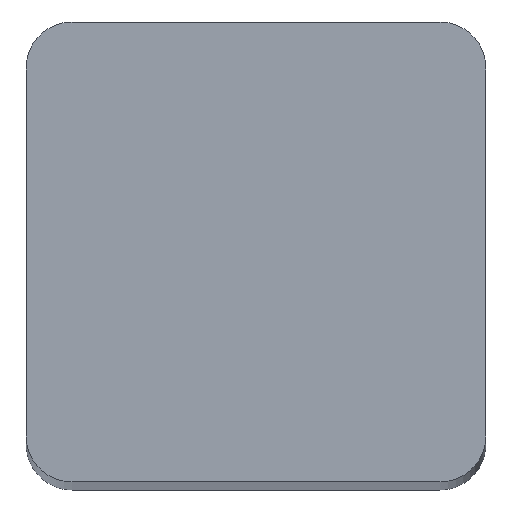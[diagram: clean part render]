
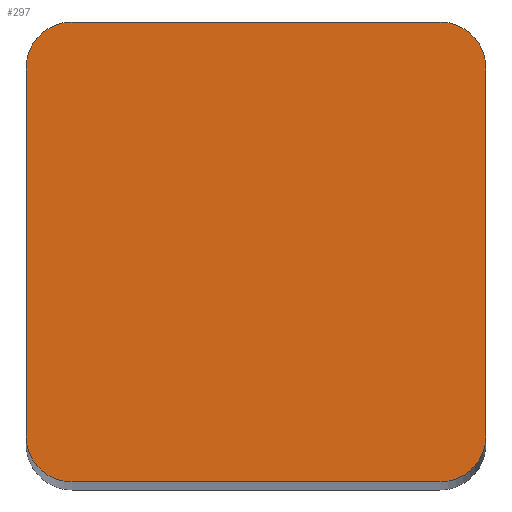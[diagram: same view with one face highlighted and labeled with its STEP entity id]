
A CAD part, top view. The second image highlights one B-rep face of the part: STEP entity #297.
In plain terms, the highlighted planar face has unit normal (0, 0, 1).
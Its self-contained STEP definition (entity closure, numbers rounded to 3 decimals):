
#1 = CARTESIAN_POINT ( 'NONE',  ( 18., 2., 200. ) ) ;
#2 = VERTEX_POINT ( 'NONE', #164 ) ;
#12 = EDGE_CURVE ( 'NONE', #300, #333, #306, .T. ) ;
#13 = CIRCLE ( 'NONE', #275, 2. ) ;
#25 = CARTESIAN_POINT ( 'NONE',  ( 20., 18., 200. ) ) ;
#26 = CARTESIAN_POINT ( 'NONE',  ( 0., 18., 200. ) ) ;
#32 = VECTOR ( 'NONE', #133, 1000. ) ;
#36 = VERTEX_POINT ( 'NONE', #253 ) ;
#37 = FACE_OUTER_BOUND ( 'NONE', #145, .T. ) ;
#40 = ORIENTED_EDGE ( 'NONE', *, *, #216, .T. ) ;
#49 = DIRECTION ( 'NONE',  ( 0., 0., 1. ) ) ;
#51 = PLANE ( 'NONE',  #251 ) ;
#53 = EDGE_CURVE ( 'NONE', #36, #196, #214, .T. ) ;
#56 = DIRECTION ( 'NONE',  ( -1., 0., 0. ) ) ;
#65 = EDGE_CURVE ( 'NONE', #2, #160, #126, .T. ) ;
#73 = CARTESIAN_POINT ( 'NONE',  ( 18., 20., 200. ) ) ;
#82 = DIRECTION ( 'NONE',  ( -1., 0., 0. ) ) ;
#85 = VECTOR ( 'NONE', #56, 1000. ) ;
#92 = CIRCLE ( 'NONE', #336, 2. ) ;
#103 = ORIENTED_EDGE ( 'NONE', *, *, #53, .T. ) ;
#125 = ORIENTED_EDGE ( 'NONE', *, *, #12, .T. ) ;
#126 = LINE ( 'NONE', #344, #147 ) ;
#133 = DIRECTION ( 'NONE',  ( 0., -1., 0. ) ) ;
#145 = EDGE_LOOP ( 'NONE', ( #103, #40, #157, #217, #231, #276, #125, #192 ) ) ;
#147 = VECTOR ( 'NONE', #194, 1000. ) ;
#157 = ORIENTED_EDGE ( 'NONE', *, *, #65, .T. ) ;
#160 = VERTEX_POINT ( 'NONE', #25 ) ;
#164 = CARTESIAN_POINT ( 'NONE',  ( 20., 2., 200. ) ) ;
#172 = DIRECTION ( 'NONE',  ( 0., 0., 1. ) ) ;
#173 = VERTEX_POINT ( 'NONE', #264 ) ;
#180 = DIRECTION ( 'NONE',  ( -1., 0., 0. ) ) ;
#184 = DIRECTION ( 'NONE',  ( -1., 0., 0. ) ) ;
#192 = ORIENTED_EDGE ( 'NONE', *, *, #235, .T. ) ;
#194 = DIRECTION ( 'NONE',  ( 0., 1., 0. ) ) ;
#196 = VERTEX_POINT ( 'NONE', #198 ) ;
#198 = CARTESIAN_POINT ( 'NONE',  ( 18., 0., 200. ) ) ;
#199 = EDGE_CURVE ( 'NONE', #270, #173, #307, .T. ) ;
#200 = CARTESIAN_POINT ( 'NONE',  ( 0., 20., 200. ) ) ;
#203 = DIRECTION ( 'NONE',  ( 0., 0., 1. ) ) ;
#214 = LINE ( 'NONE', #258, #334 ) ;
#216 = EDGE_CURVE ( 'NONE', #196, #2, #13, .T. ) ;
#217 = ORIENTED_EDGE ( 'NONE', *, *, #310, .T. ) ;
#228 = DIRECTION ( 'NONE',  ( 0., 0., -1. ) ) ;
#231 = ORIENTED_EDGE ( 'NONE', *, *, #199, .T. ) ;
#234 = CARTESIAN_POINT ( 'NONE',  ( 0., 2., 200. ) ) ;
#235 = EDGE_CURVE ( 'NONE', #333, #36, #361, .T. ) ;
#248 = AXIS2_PLACEMENT_3D ( 'NONE', #294, #203, #265 ) ;
#251 = AXIS2_PLACEMENT_3D ( 'NONE', #355, #228, #180 ) ;
#253 = CARTESIAN_POINT ( 'NONE',  ( 2., 0., 200. ) ) ;
#258 = CARTESIAN_POINT ( 'NONE',  ( 0., 0., 200. ) ) ;
#264 = CARTESIAN_POINT ( 'NONE',  ( 2., 20., 200. ) ) ;
#265 = DIRECTION ( 'NONE',  ( -1., 0., 0. ) ) ;
#270 = VERTEX_POINT ( 'NONE', #73 ) ;
#274 = CARTESIAN_POINT ( 'NONE',  ( 2., 18., 200. ) ) ;
#275 = AXIS2_PLACEMENT_3D ( 'NONE', #1, #49, #82 ) ;
#276 = ORIENTED_EDGE ( 'NONE', *, *, #363, .T. ) ;
#278 = CIRCLE ( 'NONE', #279, 2. ) ;
#279 = AXIS2_PLACEMENT_3D ( 'NONE', #350, #172, #324 ) ;
#294 = CARTESIAN_POINT ( 'NONE',  ( 2., 2., 200. ) ) ;
#297 = ADVANCED_FACE ( 'NONE', ( #37 ), #51, .F. ) ;
#300 = VERTEX_POINT ( 'NONE', #26 ) ;
#306 = LINE ( 'NONE', #370, #32 ) ;
#307 = LINE ( 'NONE', #200, #85 ) ;
#310 = EDGE_CURVE ( 'NONE', #160, #270, #278, .T. ) ;
#317 = DIRECTION ( 'NONE',  ( 1., 0., 0. ) ) ;
#324 = DIRECTION ( 'NONE',  ( -1., 0., 0. ) ) ;
#328 = DIRECTION ( 'NONE',  ( 0., 0., 1. ) ) ;
#333 = VERTEX_POINT ( 'NONE', #234 ) ;
#334 = VECTOR ( 'NONE', #317, 1000. ) ;
#336 = AXIS2_PLACEMENT_3D ( 'NONE', #274, #328, #184 ) ;
#344 = CARTESIAN_POINT ( 'NONE',  ( 20., 0., 200. ) ) ;
#350 = CARTESIAN_POINT ( 'NONE',  ( 18., 18., 200. ) ) ;
#355 = CARTESIAN_POINT ( 'NONE',  ( 0., 0., 200. ) ) ;
#361 = CIRCLE ( 'NONE', #248, 2. ) ;
#363 = EDGE_CURVE ( 'NONE', #173, #300, #92, .T. ) ;
#370 = CARTESIAN_POINT ( 'NONE',  ( 0., 0., 200. ) ) ;
